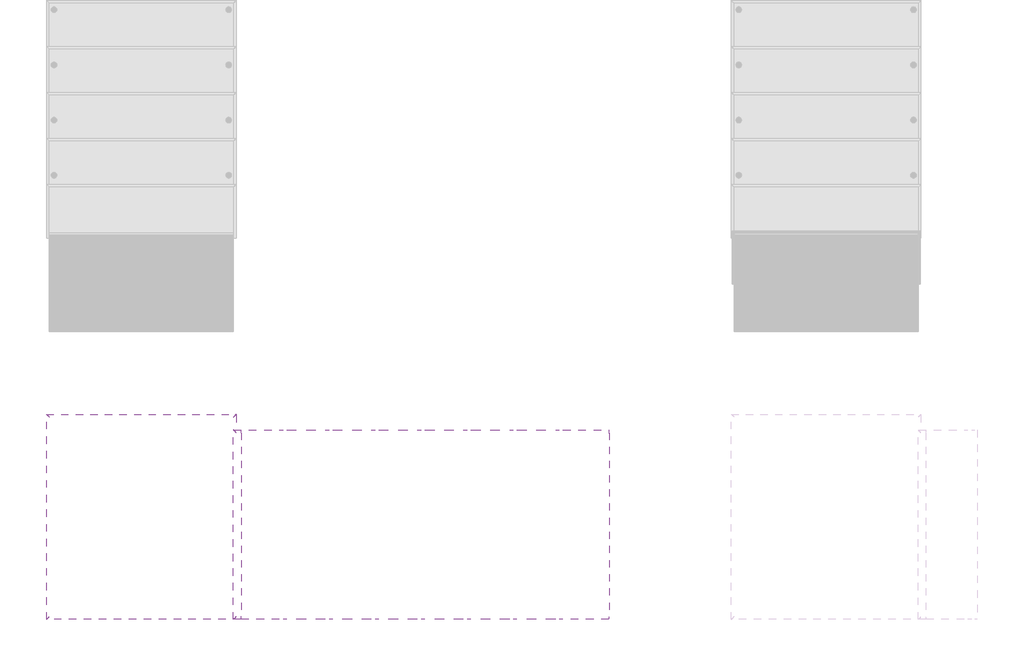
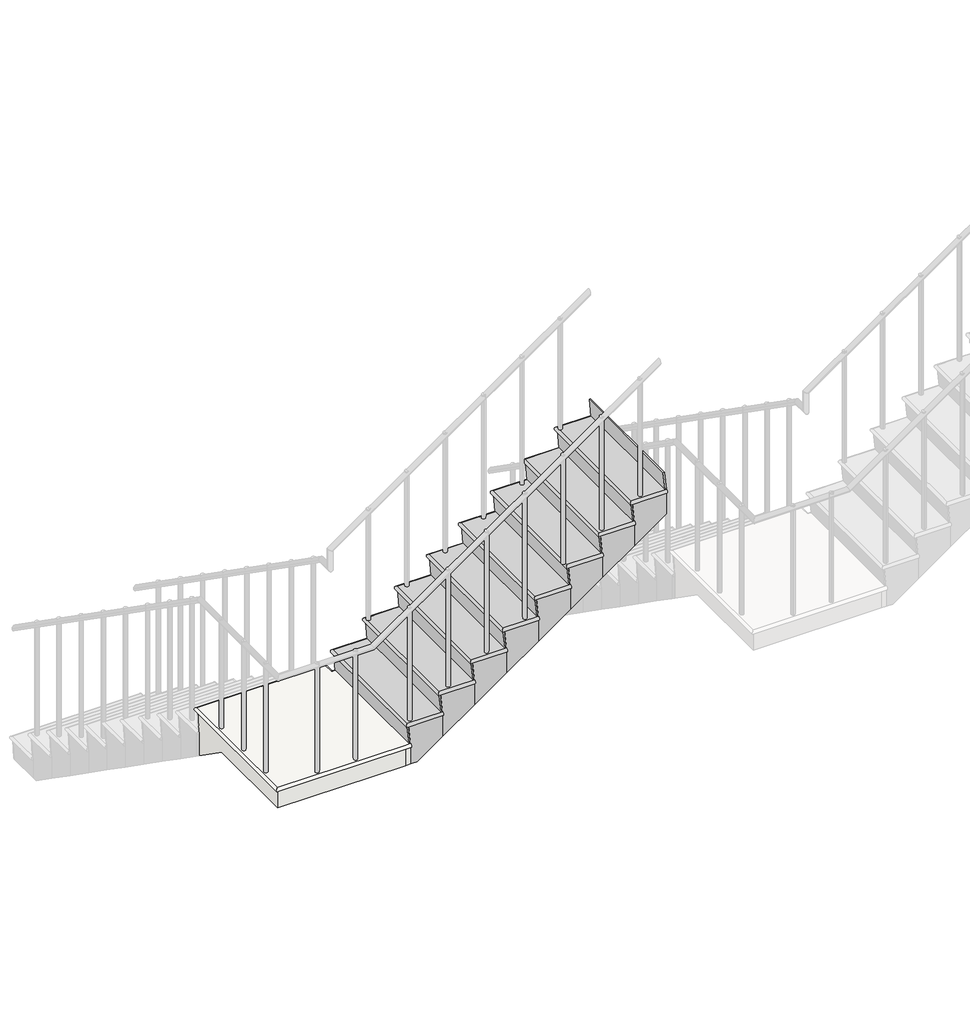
# One storey, part 1 of 6: 1 slab, 1 stair flight.
"""IFC4 building model written with IfcOpenShell, lengths in millimetres."""

from ifc_helpers import new_model, si_unit, frame, origin, place, context, project, spatial, circle_curve, ellipse_curve, faceted_brep, element, save
from ifc_brep_helpers import plane_surface, cylinder_surface, advanced_brep

model = new_model("IFC4")

# Units and contexts
model_context = context("Model", 3, world=origin())
ifc_project = project(units=[si_unit("LENGTHUNIT", "METRE", prefix="MILLI")], contexts=[model_context])

# Site, building, storey
site = spatial("IfcSite", under=ifc_project)
building = spatial("IfcBuilding", under=site)
storey = spatial("IfcBuildingStorey", under=building, Name="樓層 1", Elevation=0.0)

# Slab
placement = place(None, origin())
element("IfcSlab", 1, ObjectType="150mm 厚度", at=placement, inside=storey, context=model_context, shape_type="SolidModel", body=[
    faceted_brep([(-6429.5669097, 476.8888386, 1905.0), (-5429.5669097, 476.8888386, 1905.0), (-5429.5669097, 458.7853903, 1730.0), (-6429.5669097, 458.7853903, 1730.0), (-6429.5669097, -599.0922788, 1905.0), (-5429.5669097, -599.0922788, 1905.0), (-5387.4445789, -599.0922788, 1905.0), (-5387.4445789, 400.9077212, 1905.0), (-5429.5669097, 400.9077212, 1905.0), (-6429.5669097, 158.0144684, 1905.0), (-5429.5669097, 458.7853903, 1544.4603546), (-6429.5669097, 458.7853903, 1544.4603546), (-6429.5669097, 158.0144684, 1755.0), (-6429.5669097, -599.0922788, 1755.0), (-5429.5669097, -599.0922788, 1755.0), (-5387.4445789, -599.0922788, 1755.0), (-5387.4445789, 400.9077212, 1755.0), (-5429.5669097, 400.9077212, 1755.0), (-5429.5669097, 158.0144684, 1755.0)], [[[0, 1, 2, 3]], [[4, 5, 6, 7, 8, 1, 0, 9]], [[3, 2, 10, 11]], [[0, 3, 11, 12, 13, 4, 9]], [[5, 4, 13, 14]], [[6, 5, 14, 15]], [[7, 6, 15, 16]], [[8, 7, 16, 17]], [[1, 8, 17, 18, 10, 2]], [[12, 18, 17, 16, 15, 14, 13]], [[10, 18, 12, 11]]]),
    advanced_brep(
    [(-5389.5135444, -599.0922788, 1925.0), (-5387.4445789, -599.0922788, 1905.0), (-5387.4445789, 400.9077212, 1905.0), (-5389.5135444, 400.9077212, 1925.0), (-5429.5669097, 400.9077212, 1925.0), (-5429.5669097, 485.9077212, 1925.0), (-6429.5669097, 485.9077212, 1925.0), (-6429.5669097, -599.0922788, 1925.0), (-5429.5669097, -599.0922788, 1925.0), (-5389.5135444, -599.0922788, 1905.0), (-5429.5669097, -599.0922788, 1905.0), (-6429.5669097, -599.0922788, 1905.0), (-6429.5669097, 485.9077212, 1905.0), (-5429.5669097, 485.9077212, 1905.0), (-5429.5669097, 400.9077212, 1905.0), (-5389.5135444, 400.9077212, 1905.0), (-5389.5135444, -599.0922788, 1895.0), (-6429.5669097, -599.0922788, 1895.0), (-6429.5669097, 485.9077212, 1895.0), (-5429.5669097, 485.9077212, 1895.0), (-5429.5669097, 400.9077212, 1895.0), (-5389.5135444, 400.9077212, 1895.0)],
    [
        (0, 1),
        (1, 2),
        (2, 3),
        (3, 0),
        (3, 4),
        (4, 5),
        (5, 6),
        (6, 7),
        (7, 8),
        (8, 0),
        (1, 9),
        (9, 10),
        (10, 11),
        (11, 12),
        (12, 13),
        (13, 14),
        (14, 15),
        (15, 2),
        (0, 9),
        (15, 3),
        (0, 16, circle_curve(frame((-5389.5135444, -599.0922788, 1910.0), z_axis=(1.0, 0.0, 0.0), x_axis=(0.0, 1.0, 0.0)), 15.0)),
        (16, 9),
        (7, 17, ellipse_curve(frame((-6429.5669097, -599.0922788, 1910.0), z_axis=(0.7071067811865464, -0.7071067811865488, 0.0), x_axis=(0.7071067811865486, 0.7071067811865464, 0.0)), 21.2132034, 15.0)),
        (17, 16),
        (17, 11),
        (6, 18, ellipse_curve(frame((-6429.5669097, 485.9077212, 1910.0), z_axis=(-0.7071067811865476, -0.7071067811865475, 0.0), x_axis=(0.7071067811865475, -0.7071067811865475, 0.0)), 21.2132034, 15.0)),
        (18, 17),
        (18, 12),
        (5, 19, ellipse_curve(frame((-5429.5669097, 485.9077212, 1910.0), z_axis=(-0.7071067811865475, 0.7071067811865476, 0.0), x_axis=(-0.7071067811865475, -0.7071067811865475, 0.0)), 21.2132034, 15.0)),
        (19, 18),
        (19, 13),
        (4, 20, ellipse_curve(frame((-5429.5669097, 400.9077212, 1910.0), z_axis=(-0.7071067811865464, 0.7071067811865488, 0.0), x_axis=(0.7071067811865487, 0.7071067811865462, 0.0)), 21.2132034, 15.0)),
        (20, 19),
        (20, 14),
        (21, 3, circle_curve(frame((-5389.5135444, 400.9077212, 1910.0), z_axis=(1.0, 0.0, 0.0), x_axis=(0.0, -1.0, 0.0)), 15.0)),
        (15, 21),
        (21, 20),
    ],
    [
        plane_surface(frame((-5387.4445789, -599.0922788, 1905.0), z_axis=(0.9946917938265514, 0.0, 0.10289915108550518), x_axis=(0.0, 1.0, 0.0))),
        plane_surface(frame((-5429.5669097, 485.9077212, 1925.0), z_axis=(0.0, 0.0, 1.0), x_axis=(-1.0, 0.0, 0.0))),
        plane_surface(frame((-5429.5669097, 485.9077212, 1905.0), z_axis=(0.0, 0.0, -1.0), x_axis=(1.0, 0.0, 0.0))),
        plane_surface(frame((-5429.5669097, -599.0922788, 1925.0), z_axis=(0.0, -1.0, 0.0), x_axis=(0.0, 0.0, -1.0))),
        plane_surface(frame((-5389.5135444, 400.9077212, 1925.0), z_axis=(0.0, 1.0, 0.0), x_axis=(0.0, 0.0, -1.0))),
        plane_surface(frame((-5389.5135444, -599.0922788, 1925.0), z_axis=(1.0, 0.0, 0.0), x_axis=(0.0, 1.0, 0.0))),
        cylinder_surface(frame((-5389.5135444, -599.0922788, 1910.0), z_axis=(1.0, 0.0, 0.0), x_axis=(0.0, 1.0, 0.0)), 15.0),
        plane_surface(frame((-5389.5135444, -599.0922788, 1895.0), z_axis=(0.0, 1.0, 0.0), x_axis=(-1.0, 0.0, 0.0))),
        cylinder_surface(frame((-6429.5669097, -599.0922788, 1910.0), z_axis=(0.0, -1.0, 0.0), x_axis=(1.0, 0.0, 0.0)), 15.0),
        plane_surface(frame((-6429.5669097, -599.0922788, 1895.0), z_axis=(1.0, 0.0, 0.0), x_axis=(0.0, 1.0, 0.0))),
        cylinder_surface(frame((-6429.5669097, 485.9077212, 1910.0), z_axis=(-1.0, 0.0, 0.0), x_axis=(0.0, -1.0, 0.0)), 15.0),
        plane_surface(frame((-6429.5669097, 485.9077212, 1895.0), z_axis=(0.0, -1.0, 0.0), x_axis=(1.0, 0.0, 0.0))),
        cylinder_surface(frame((-5429.5669097, 485.9077212, 1910.0), z_axis=(0.0, 1.0, 0.0), x_axis=(-1.0, 0.0, 0.0)), 15.0),
        plane_surface(frame((-5429.5669097, 485.9077212, 1895.0), z_axis=(-1.0, 0.0, 0.0), x_axis=(0.0, -1.0, 0.0))),
        plane_surface(frame((-5389.5135444, 400.9077212, 1925.0), z_axis=(1.0, 0.0, 0.0), x_axis=(0.0, 1.0, 0.0))),
        cylinder_surface(frame((-5429.5669097, 400.9077212, 1910.0), z_axis=(-1.0, 0.0, 0.0), x_axis=(0.0, -1.0, 0.0)), 15.0),
        plane_surface(frame((-5429.5669097, 400.9077212, 1895.0), z_axis=(0.0, -1.0, 0.0), x_axis=(1.0, 0.0, 0.0))),
    ],
    [
        (0, [[1, 2, 3, 4]]),
        (1, [[-4, 5, 6, 7, 8, 9, 10]]),
        (2, [[-2, 11, 12, 13, 14, 15, 16, 17, 18]]),
        (3, [[-1, 19, -11]]),
        (4, [[-3, -18, 20]]),
        (5, [[21, 22, -19]]),
        (6, [[-21, -10, -9, 23, 24]]),
        (7, [[-24, 25, -13, -12, -22]]),
        (8, [[-23, -8, 26, 27]]),
        (9, [[-27, 28, -14, -25]]),
        (10, [[-26, -7, 29, 30]]),
        (11, [[-30, 31, -15, -28]]),
        (12, [[-29, -6, 32, 33]]),
        (13, [[-33, 34, -16, -31]]),
        (14, [[35, -20, 36]]),
        (15, [[-32, -5, -35, 37]]),
        (16, [[-37, -36, -17, -34]]),
    ],
),
])

# Stair flight
element("IfcStairFlight", 2, ObjectType="20mm 踏板 30mm 突沿 10mm 豎板", at=placement, inside=storey, context=model_context, shape_type="SolidModel", body=[
    faceted_brep([(-5405.5480271, -599.0922788, 2080.0), (-5405.5480271, 400.9077212, 2080.0), (-5387.4445789, 400.9077212, 1905.0), (-5387.4445789, -599.0922788, 1905.0), (-5336.6736569, -599.0922788, 2080.0), (-5137.4445789, -599.0922788, 2080.0), (-5137.4445789, 400.9077212, 2080.0), (-5336.6736569, 400.9077212, 2080.0), (-5137.4445789, 400.9077212, 1894.4603546), (-5336.6736569, 400.9077212, 1755.0), (-5387.4445789, 400.9077212, 1755.0), (-5387.4445789, -599.0922788, 1755.0), (-5336.6736569, -599.0922788, 1755.0), (-5137.4445789, -599.0922788, 1894.4603546), (-5155.5480271, 400.9077212, 2255.0), (-5155.5480271, -599.0922788, 2255.0), (-4887.4445789, -599.0922788, 2255.0), (-4887.4445789, 400.9077212, 2255.0), (-4887.4445789, 400.9077212, 2069.4603546), (-4887.4445789, -599.0922788, 2069.4603546), (-4905.5480271, 400.9077212, 2430.0), (-4905.5480271, -599.0922788, 2430.0), (-4637.4445789, -599.0922788, 2430.0), (-4637.4445789, 400.9077212, 2430.0), (-4637.4445789, 400.9077212, 2244.4603546), (-4637.4445789, -599.0922788, 2244.4603546), (-4655.5480271, 400.9077212, 2605.0), (-4655.5480271, -599.0922788, 2605.0), (-4387.4445789, -599.0922788, 2605.0), (-4387.4445789, 400.9077212, 2605.0), (-4387.4445789, 400.9077212, 2419.4603546), (-4387.4445789, -599.0922788, 2419.4603546), (-4405.5480271, 400.9077212, 2780.0), (-4405.5480271, -599.0922788, 2780.0), (-4137.4445789, -599.0922788, 2780.0), (-4137.4445789, 400.9077212, 2780.0), (-4137.4445789, 400.9077212, 2594.4603546), (-4137.4445789, -599.0922788, 2594.4603546), (-4155.5480271, 400.9077212, 2955.0), (-4155.5480271, -599.0922788, 2955.0), (-3887.4445789, -599.0922788, 2955.0), (-3887.4445789, 400.9077212, 2955.0), (-3887.4445789, 400.9077212, 2769.4603546), (-3887.4445789, -599.0922788, 2769.4603546), (-3905.5480271, 400.9077212, 3130.0), (-3905.5480271, -599.0922788, 3130.0), (-3637.4445789, -599.0922788, 3130.0), (-3637.4445789, 400.9077212, 3130.0), (-3637.4445789, 400.9077212, 2944.4603546), (-3637.4445789, -599.0922788, 2944.4603546), (-3655.5480271, 400.9077212, 3305.0), (-3655.5480271, -599.0922788, 3305.0), (-3387.4445789, -599.0922788, 3305.0), (-3387.4445789, 400.9077212, 3305.0), (-3387.4445789, 400.9077212, 3119.4603546), (-3387.4445789, -599.0922788, 3119.4603546)], [[[0, 1, 2, 3]], [[1, 0, 4, 5, 6, 7]], [[2, 1, 7, 6, 8, 9, 10]], [[3, 2, 10, 11]], [[0, 3, 11, 12, 13, 5, 4]], [[14, 15, 16, 17]], [[14, 17, 18, 8, 6]], [[16, 15, 5, 13, 19]], [[15, 14, 6, 5]], [[20, 21, 22, 23]], [[20, 23, 24, 18, 17]], [[22, 21, 16, 19, 25]], [[21, 20, 17, 16]], [[26, 27, 28, 29]], [[26, 29, 30, 24, 23]], [[28, 27, 22, 25, 31]], [[27, 26, 23, 22]], [[32, 33, 34, 35]], [[32, 35, 36, 30, 29]], [[34, 33, 28, 31, 37]], [[33, 32, 29, 28]], [[38, 39, 40, 41]], [[38, 41, 42, 36, 35]], [[40, 39, 34, 37, 43]], [[39, 38, 35, 34]], [[44, 45, 46, 47]], [[44, 47, 48, 42, 41]], [[46, 45, 40, 43, 49]], [[45, 44, 41, 40]], [[50, 51, 52, 53]], [[50, 53, 54, 48, 47]], [[52, 51, 46, 49, 55]], [[53, 52, 55, 54]], [[51, 50, 47, 46]], [[12, 9, 8, 18, 24, 30, 36, 42, 48, 54, 55, 49, 43, 37, 31, 25, 19, 13]], [[9, 12, 11, 10]]]),
    advanced_brep(
    [(-5139.5135444, -599.0922788, 2100.0), (-5137.4445789, -599.0922788, 2080.0), (-5137.4445789, 400.9077212, 2080.0), (-5139.5135444, 400.9077212, 2100.0), (-5414.5669097, 400.9077212, 2100.0), (-5414.5669097, -599.0922788, 2100.0), (-5139.5135444, -599.0922788, 2080.0), (-5414.5669097, -599.0922788, 2080.0), (-5414.5669097, 400.9077212, 2080.0), (-5139.5135444, 400.9077212, 2080.0), (-5139.5135444, -599.0922788, 2070.0), (-5414.5669097, -599.0922788, 2070.0), (-5414.5669097, 400.9077212, 2070.0), (-5139.5135444, 400.9077212, 2070.0)],
    [
        (0, 1),
        (1, 2),
        (2, 3),
        (3, 0),
        (3, 4),
        (4, 5),
        (5, 0),
        (1, 6),
        (6, 7),
        (7, 8),
        (8, 9),
        (9, 2),
        (9, 3),
        (0, 6),
        (0, 10, circle_curve(frame((-5139.5135444, -599.0922788, 2085.0), z_axis=(1.0, 0.0, 0.0), x_axis=(0.0, 1.0, 0.0)), 15.0)),
        (10, 6),
        (5, 11, ellipse_curve(frame((-5414.5669097, -599.0922788, 2085.0), z_axis=(0.7071067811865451, -0.7071067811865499, 0.0), x_axis=(0.7071067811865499, 0.7071067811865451, 0.0)), 21.2132034, 15.0)),
        (11, 10),
        (11, 7),
        (4, 12, ellipse_curve(frame((-5414.5669097, 400.9077212, 2085.0), z_axis=(-0.7071067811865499, -0.707106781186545, 0.0), x_axis=(0.7071067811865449, -0.70710678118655, 0.0)), 21.2132034, 15.0)),
        (12, 11),
        (12, 8),
        (13, 3, circle_curve(frame((-5139.5135444, 400.9077212, 2085.0), z_axis=(1.0, 0.0, 0.0), x_axis=(0.0, -1.0, 0.0)), 15.0)),
        (9, 13),
        (13, 12),
    ],
    [
        plane_surface(frame((-5137.4445789, -599.0922788, 2080.0), z_axis=(0.9946917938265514, 0.0, 0.10289915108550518), x_axis=(0.0, 1.0, 0.0))),
        plane_surface(frame((-5429.5669097, 400.9077212, 2100.0), z_axis=(0.0, 0.0, 1.0), x_axis=(-1.0, 0.0, 0.0))),
        plane_surface(frame((-5429.5669097, 400.9077212, 2080.0), z_axis=(0.0, 0.0, -1.0), x_axis=(1.0, 0.0, 0.0))),
        plane_surface(frame((-5139.5135444, 400.9077212, 2100.0), z_axis=(0.0, 1.0, 0.0), x_axis=(0.0, 0.0, -1.0))),
        plane_surface(frame((-5414.5669097, -599.0922788, 2100.0), z_axis=(0.0, -1.0, 0.0), x_axis=(0.0, 0.0, -1.0))),
        plane_surface(frame((-5139.5135444, -599.0922788, 2100.0), z_axis=(1.0, 0.0, 0.0), x_axis=(0.0, 1.0, 0.0))),
        cylinder_surface(frame((-5139.5135444, -599.0922788, 2085.0), z_axis=(1.0, 0.0, 0.0), x_axis=(0.0, 1.0, 0.0)), 15.0),
        plane_surface(frame((-5139.5135444, -599.0922788, 2070.0), z_axis=(0.0, 1.0, 0.0), x_axis=(-1.0, 0.0, 0.0))),
        cylinder_surface(frame((-5414.5669097, -599.0922788, 2085.0), z_axis=(0.0, -1.0, 0.0), x_axis=(1.0, 0.0, 0.0)), 15.0),
        plane_surface(frame((-5414.5669097, -599.0922788, 2070.0), z_axis=(1.0, 0.0, 0.0), x_axis=(0.0, 1.0, 0.0))),
        plane_surface(frame((-5139.5135444, 400.9077212, 2100.0), z_axis=(1.0, 0.0, 0.0), x_axis=(0.0, 1.0, 0.0))),
        cylinder_surface(frame((-5414.5669097, 400.9077212, 2085.0), z_axis=(-1.0, 0.0, 0.0), x_axis=(0.0, -1.0, 0.0)), 15.0),
        plane_surface(frame((-5414.5669097, 400.9077212, 2070.0), z_axis=(0.0, -1.0, 0.0), x_axis=(1.0, 0.0, 0.0))),
    ],
    [
        (0, [[1, 2, 3, 4]]),
        (1, [[-4, 5, 6, 7]]),
        (2, [[-2, 8, 9, 10, 11, 12]]),
        (3, [[-3, -12, 13]]),
        (4, [[-1, 14, -8]]),
        (5, [[15, 16, -14]]),
        (6, [[-15, -7, 17, 18]]),
        (7, [[-18, 19, -9, -16]]),
        (8, [[-17, -6, 20, 21]]),
        (9, [[-21, 22, -10, -19]]),
        (10, [[23, -13, 24]]),
        (11, [[-20, -5, -23, 25]]),
        (12, [[-25, -24, -11, -22]]),
    ],
),
    faceted_brep([(-5414.5669097, -599.0922788, 2070.0), (-5399.5669097, -599.0922788, 1925.0), (-5389.5135444, -599.0922788, 1925.0), (-5404.5135444, -599.0922788, 2070.0), (-5414.5669097, 400.9077212, 2070.0), (-5404.5135444, 400.9077212, 2070.0), (-5389.5135444, 400.9077212, 1925.0), (-5399.5669097, 400.9077212, 1925.0)], [[[0, 1, 2, 3]], [[4, 5, 6, 7]], [[1, 0, 4, 7]], [[2, 1, 7, 6]], [[3, 2, 6, 5]], [[0, 3, 5, 4]]]),
    faceted_brep([(-5164.5669097, -599.0922788, 2245.0), (-5149.5669097, -599.0922788, 2100.0), (-5139.5135444, -599.0922788, 2100.0), (-5154.5135444, -599.0922788, 2245.0), (-5164.5669097, 400.9077212, 2245.0), (-5154.5135444, 400.9077212, 2245.0), (-5139.5135444, 400.9077212, 2100.0), (-5149.5669097, 400.9077212, 2100.0)], [[[0, 1, 2, 3]], [[4, 5, 6, 7]], [[1, 0, 4, 7]], [[2, 1, 7, 6]], [[3, 2, 6, 5]], [[0, 3, 5, 4]]]),
    advanced_brep(
    [(-4889.5135444, -599.0922788, 2275.0), (-4889.5135444, 400.9077212, 2275.0), (-5164.5669097, 400.9077212, 2275.0), (-5164.5669097, -599.0922788, 2275.0), (-4887.4445789, 400.9077212, 2255.0), (-4887.4445789, -599.0922788, 2255.0), (-4889.5135444, -599.0922788, 2255.0), (-5164.5669097, -599.0922788, 2255.0), (-5164.5669097, 400.9077212, 2255.0), (-4889.5135444, 400.9077212, 2255.0), (-4889.5135444, -599.0922788, 2245.0), (-5164.5669097, -599.0922788, 2245.0), (-5164.5669097, 400.9077212, 2245.0), (-4889.5135444, 400.9077212, 2245.0)],
    [
        (0, 1),
        (1, 2),
        (2, 3),
        (3, 0),
        (4, 5),
        (5, 6),
        (6, 7),
        (7, 8),
        (8, 9),
        (9, 4),
        (1, 4),
        (9, 1),
        (5, 0),
        (0, 6),
        (0, 10, circle_curve(frame((-4889.5135444, -599.0922788, 2260.0), z_axis=(1.0, 0.0, 0.0), x_axis=(0.0, 1.0, 0.0)), 15.0)),
        (10, 6),
        (3, 11, ellipse_curve(frame((-5164.5669097, -599.0922788, 2260.0), z_axis=(0.7071067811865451, -0.7071067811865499, 0.0), x_axis=(0.7071067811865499, 0.7071067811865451, 0.0)), 21.2132034, 15.0)),
        (11, 10),
        (11, 7),
        (2, 12, ellipse_curve(frame((-5164.5669097, 400.9077212, 2260.0), z_axis=(-0.7071067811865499, -0.707106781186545, 0.0), x_axis=(0.7071067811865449, -0.70710678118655, 0.0)), 21.2132034, 15.0)),
        (12, 11),
        (12, 8),
        (13, 1, circle_curve(frame((-4889.5135444, 400.9077212, 2260.0), z_axis=(1.0, 0.0, 0.0), x_axis=(0.0, -1.0, 0.0)), 15.0)),
        (9, 13),
        (13, 12),
    ],
    [
        plane_surface(frame((-5179.5669097, 400.9077212, 2275.0), z_axis=(0.0, 0.0, 1.0), x_axis=(-1.0, 0.0, 0.0))),
        plane_surface(frame((-5179.5669097, 400.9077212, 2255.0), z_axis=(0.0, 0.0, -1.0), x_axis=(1.0, 0.0, 0.0))),
        plane_surface(frame((-4889.5135444, 400.9077212, 2275.0), z_axis=(0.0, 1.0, 0.0), x_axis=(0.0, 0.0, -1.0))),
        plane_surface(frame((-5164.5669097, -599.0922788, 2275.0), z_axis=(0.0, -1.0, 0.0), x_axis=(0.0, 0.0, -1.0))),
        plane_surface(frame((-4887.4445789, -599.0922788, 2255.0), z_axis=(0.9946917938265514, 0.0, 0.10289915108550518), x_axis=(0.0, 1.0, 0.0))),
        plane_surface(frame((-4889.5135444, -599.0922788, 2275.0), z_axis=(1.0, 0.0, 0.0), x_axis=(0.0, 1.0, 0.0))),
        cylinder_surface(frame((-4889.5135444, -599.0922788, 2260.0), z_axis=(1.0, 0.0, 0.0), x_axis=(0.0, 1.0, 0.0)), 15.0),
        plane_surface(frame((-4889.5135444, -599.0922788, 2245.0), z_axis=(0.0, 1.0, 0.0), x_axis=(-1.0, 0.0, 0.0))),
        cylinder_surface(frame((-5164.5669097, -599.0922788, 2260.0), z_axis=(0.0, -1.0, 0.0), x_axis=(1.0, 0.0, 0.0)), 15.0),
        plane_surface(frame((-5164.5669097, -599.0922788, 2245.0), z_axis=(1.0, 0.0, 0.0), x_axis=(0.0, 1.0, 0.0))),
        plane_surface(frame((-4889.5135444, 400.9077212, 2275.0), z_axis=(1.0, 0.0, 0.0), x_axis=(0.0, 1.0, 0.0))),
        cylinder_surface(frame((-5164.5669097, 400.9077212, 2260.0), z_axis=(-1.0, 0.0, 0.0), x_axis=(0.0, -1.0, 0.0)), 15.0),
        plane_surface(frame((-5164.5669097, 400.9077212, 2245.0), z_axis=(0.0, -1.0, 0.0), x_axis=(1.0, 0.0, 0.0))),
    ],
    [
        (0, [[1, 2, 3, 4]]),
        (1, [[5, 6, 7, 8, 9, 10]]),
        (2, [[11, -10, 12]]),
        (3, [[13, 14, -6]]),
        (4, [[-13, -5, -11, -1]]),
        (5, [[15, 16, -14]]),
        (6, [[-15, -4, 17, 18]]),
        (7, [[-18, 19, -7, -16]]),
        (8, [[-17, -3, 20, 21]]),
        (9, [[-21, 22, -8, -19]]),
        (10, [[23, -12, 24]]),
        (11, [[-20, -2, -23, 25]]),
        (12, [[-25, -24, -9, -22]]),
    ],
),
    faceted_brep([(-4914.5669097, -599.0922788, 2420.0), (-4899.5669097, -599.0922788, 2275.0), (-4889.5135444, -599.0922788, 2275.0), (-4904.5135444, -599.0922788, 2420.0), (-4914.5669097, 400.9077212, 2420.0), (-4904.5135444, 400.9077212, 2420.0), (-4889.5135444, 400.9077212, 2275.0), (-4899.5669097, 400.9077212, 2275.0)], [[[0, 1, 2, 3]], [[4, 5, 6, 7]], [[1, 0, 4, 7]], [[2, 1, 7, 6]], [[3, 2, 6, 5]], [[0, 3, 5, 4]]]),
    advanced_brep(
    [(-4639.5135444, -599.0922788, 2450.0), (-4639.5135444, 400.9077212, 2450.0), (-4914.5669097, 400.9077212, 2450.0), (-4914.5669097, -599.0922788, 2450.0), (-4637.4445789, 400.9077212, 2430.0), (-4637.4445789, -599.0922788, 2430.0), (-4639.5135444, -599.0922788, 2430.0), (-4914.5669097, -599.0922788, 2430.0), (-4914.5669097, 400.9077212, 2430.0), (-4639.5135444, 400.9077212, 2430.0), (-4639.5135444, -599.0922788, 2420.0), (-4914.5669097, -599.0922788, 2420.0), (-4914.5669097, 400.9077212, 2420.0), (-4639.5135444, 400.9077212, 2420.0)],
    [
        (0, 1),
        (1, 2),
        (2, 3),
        (3, 0),
        (4, 5),
        (5, 6),
        (6, 7),
        (7, 8),
        (8, 9),
        (9, 4),
        (1, 4),
        (9, 1),
        (5, 0),
        (0, 6),
        (0, 10, circle_curve(frame((-4639.5135444, -599.0922788, 2435.0), z_axis=(1.0, 0.0, 0.0), x_axis=(0.0, 1.0, 0.0)), 15.0)),
        (10, 6),
        (3, 11, ellipse_curve(frame((-4914.5669097, -599.0922788, 2435.0), z_axis=(0.7071067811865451, -0.7071067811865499, 0.0), x_axis=(0.7071067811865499, 0.7071067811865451, 0.0)), 21.2132034, 15.0)),
        (11, 10),
        (11, 7),
        (2, 12, ellipse_curve(frame((-4914.5669097, 400.9077212, 2435.0), z_axis=(-0.7071067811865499, -0.707106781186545, 0.0), x_axis=(0.7071067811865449, -0.70710678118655, 0.0)), 21.2132034, 15.0)),
        (12, 11),
        (12, 8),
        (13, 1, circle_curve(frame((-4639.5135444, 400.9077212, 2435.0), z_axis=(1.0, 0.0, 0.0), x_axis=(0.0, -1.0, 0.0)), 15.0)),
        (9, 13),
        (13, 12),
    ],
    [
        plane_surface(frame((-4929.5669097, 400.9077212, 2450.0), z_axis=(0.0, 0.0, 1.0), x_axis=(-1.0, 0.0, 0.0))),
        plane_surface(frame((-4929.5669097, 400.9077212, 2430.0), z_axis=(0.0, 0.0, -1.0), x_axis=(1.0, 0.0, 0.0))),
        plane_surface(frame((-4639.5135444, 400.9077212, 2450.0), z_axis=(0.0, 1.0, 0.0), x_axis=(0.0, 0.0, -1.0))),
        plane_surface(frame((-4914.5669097, -599.0922788, 2450.0), z_axis=(0.0, -1.0, 0.0), x_axis=(0.0, 0.0, -1.0))),
        plane_surface(frame((-4637.4445789, -599.0922788, 2430.0), z_axis=(0.9946917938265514, 0.0, 0.10289915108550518), x_axis=(0.0, 1.0, 0.0))),
        plane_surface(frame((-4639.5135444, -599.0922788, 2450.0), z_axis=(1.0, 0.0, 0.0), x_axis=(0.0, 1.0, 0.0))),
        cylinder_surface(frame((-4639.5135444, -599.0922788, 2435.0), z_axis=(1.0, 0.0, 0.0), x_axis=(0.0, 1.0, 0.0)), 15.0),
        plane_surface(frame((-4639.5135444, -599.0922788, 2420.0), z_axis=(0.0, 1.0, 0.0), x_axis=(-1.0, 0.0, 0.0))),
        cylinder_surface(frame((-4914.5669097, -599.0922788, 2435.0), z_axis=(0.0, -1.0, 0.0), x_axis=(1.0, 0.0, 0.0)), 15.0),
        plane_surface(frame((-4914.5669097, -599.0922788, 2420.0), z_axis=(1.0, 0.0, 0.0), x_axis=(0.0, 1.0, 0.0))),
        plane_surface(frame((-4639.5135444, 400.9077212, 2450.0), z_axis=(1.0, 0.0, 0.0), x_axis=(0.0, 1.0, 0.0))),
        cylinder_surface(frame((-4914.5669097, 400.9077212, 2435.0), z_axis=(-1.0, 0.0, 0.0), x_axis=(0.0, -1.0, 0.0)), 15.0),
        plane_surface(frame((-4914.5669097, 400.9077212, 2420.0), z_axis=(0.0, -1.0, 0.0), x_axis=(1.0, 0.0, 0.0))),
    ],
    [
        (0, [[1, 2, 3, 4]]),
        (1, [[5, 6, 7, 8, 9, 10]]),
        (2, [[11, -10, 12]]),
        (3, [[13, 14, -6]]),
        (4, [[-13, -5, -11, -1]]),
        (5, [[15, 16, -14]]),
        (6, [[-15, -4, 17, 18]]),
        (7, [[-18, 19, -7, -16]]),
        (8, [[-17, -3, 20, 21]]),
        (9, [[-21, 22, -8, -19]]),
        (10, [[23, -12, 24]]),
        (11, [[-20, -2, -23, 25]]),
        (12, [[-25, -24, -9, -22]]),
    ],
),
    faceted_brep([(-4664.5669097, -599.0922788, 2595.0), (-4649.5669097, -599.0922788, 2450.0), (-4639.5135444, -599.0922788, 2450.0), (-4654.5135444, -599.0922788, 2595.0), (-4664.5669097, 400.9077212, 2595.0), (-4654.5135444, 400.9077212, 2595.0), (-4639.5135444, 400.9077212, 2450.0), (-4649.5669097, 400.9077212, 2450.0)], [[[0, 1, 2, 3]], [[4, 5, 6, 7]], [[1, 0, 4, 7]], [[2, 1, 7, 6]], [[3, 2, 6, 5]], [[0, 3, 5, 4]]]),
    advanced_brep(
    [(-4389.5135444, -599.0922788, 2625.0), (-4389.5135444, 400.9077212, 2625.0), (-4664.5669097, 400.9077212, 2625.0), (-4664.5669097, -599.0922788, 2625.0), (-4387.4445789, 400.9077212, 2605.0), (-4387.4445789, -599.0922788, 2605.0), (-4389.5135444, -599.0922788, 2605.0), (-4664.5669097, -599.0922788, 2605.0), (-4664.5669097, 400.9077212, 2605.0), (-4389.5135444, 400.9077212, 2605.0), (-4389.5135444, -599.0922788, 2595.0), (-4664.5669097, -599.0922788, 2595.0), (-4664.5669097, 400.9077212, 2595.0), (-4389.5135444, 400.9077212, 2595.0)],
    [
        (0, 1),
        (1, 2),
        (2, 3),
        (3, 0),
        (4, 5),
        (5, 6),
        (6, 7),
        (7, 8),
        (8, 9),
        (9, 4),
        (1, 4),
        (9, 1),
        (5, 0),
        (0, 6),
        (0, 10, circle_curve(frame((-4389.5135444, -599.0922788, 2610.0), z_axis=(1.0, 0.0, 0.0), x_axis=(0.0, 1.0, 0.0)), 15.0)),
        (10, 6),
        (3, 11, ellipse_curve(frame((-4664.5669097, -599.0922788, 2610.0), z_axis=(0.7071067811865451, -0.7071067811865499, 0.0), x_axis=(0.7071067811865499, 0.7071067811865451, 0.0)), 21.2132034, 15.0)),
        (11, 10),
        (11, 7),
        (2, 12, ellipse_curve(frame((-4664.5669097, 400.9077212, 2610.0), z_axis=(-0.7071067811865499, -0.707106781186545, 0.0), x_axis=(0.7071067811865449, -0.70710678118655, 0.0)), 21.2132034, 15.0)),
        (12, 11),
        (12, 8),
        (13, 1, circle_curve(frame((-4389.5135444, 400.9077212, 2610.0), z_axis=(1.0, 0.0, 0.0), x_axis=(0.0, -1.0, 0.0)), 15.0)),
        (9, 13),
        (13, 12),
    ],
    [
        plane_surface(frame((-4679.5669097, 400.9077212, 2625.0), z_axis=(0.0, 0.0, 1.0), x_axis=(-1.0, 0.0, 0.0))),
        plane_surface(frame((-4679.5669097, 400.9077212, 2605.0), z_axis=(0.0, 0.0, -1.0), x_axis=(1.0, 0.0, 0.0))),
        plane_surface(frame((-4389.5135444, 400.9077212, 2625.0), z_axis=(0.0, 1.0, 0.0), x_axis=(0.0, 0.0, -1.0))),
        plane_surface(frame((-4664.5669097, -599.0922788, 2625.0), z_axis=(0.0, -1.0, 0.0), x_axis=(0.0, 0.0, -1.0))),
        plane_surface(frame((-4387.4445789, -599.0922788, 2605.0), z_axis=(0.9946917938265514, 0.0, 0.10289915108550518), x_axis=(0.0, 1.0, 0.0))),
        plane_surface(frame((-4389.5135444, -599.0922788, 2625.0), z_axis=(1.0, 0.0, 0.0), x_axis=(0.0, 1.0, 0.0))),
        cylinder_surface(frame((-4389.5135444, -599.0922788, 2610.0), z_axis=(1.0, 0.0, 0.0), x_axis=(0.0, 1.0, 0.0)), 15.0),
        plane_surface(frame((-4389.5135444, -599.0922788, 2595.0), z_axis=(0.0, 1.0, 0.0), x_axis=(-1.0, 0.0, 0.0))),
        cylinder_surface(frame((-4664.5669097, -599.0922788, 2610.0), z_axis=(0.0, -1.0, 0.0), x_axis=(1.0, 0.0, 0.0)), 15.0),
        plane_surface(frame((-4664.5669097, -599.0922788, 2595.0), z_axis=(1.0, 0.0, 0.0), x_axis=(0.0, 1.0, 0.0))),
        plane_surface(frame((-4389.5135444, 400.9077212, 2625.0), z_axis=(1.0, 0.0, 0.0), x_axis=(0.0, 1.0, 0.0))),
        cylinder_surface(frame((-4664.5669097, 400.9077212, 2610.0), z_axis=(-1.0, 0.0, 0.0), x_axis=(0.0, -1.0, 0.0)), 15.0),
        plane_surface(frame((-4664.5669097, 400.9077212, 2595.0), z_axis=(0.0, -1.0, 0.0), x_axis=(1.0, 0.0, 0.0))),
    ],
    [
        (0, [[1, 2, 3, 4]]),
        (1, [[5, 6, 7, 8, 9, 10]]),
        (2, [[11, -10, 12]]),
        (3, [[13, 14, -6]]),
        (4, [[-13, -5, -11, -1]]),
        (5, [[15, 16, -14]]),
        (6, [[-15, -4, 17, 18]]),
        (7, [[-18, 19, -7, -16]]),
        (8, [[-17, -3, 20, 21]]),
        (9, [[-21, 22, -8, -19]]),
        (10, [[23, -12, 24]]),
        (11, [[-20, -2, -23, 25]]),
        (12, [[-25, -24, -9, -22]]),
    ],
),
    faceted_brep([(-4414.5669097, -599.0922788, 2770.0), (-4399.5669097, -599.0922788, 2625.0), (-4389.5135444, -599.0922788, 2625.0), (-4404.5135444, -599.0922788, 2770.0), (-4414.5669097, 400.9077212, 2770.0), (-4404.5135444, 400.9077212, 2770.0), (-4389.5135444, 400.9077212, 2625.0), (-4399.5669097, 400.9077212, 2625.0)], [[[0, 1, 2, 3]], [[4, 5, 6, 7]], [[1, 0, 4, 7]], [[2, 1, 7, 6]], [[3, 2, 6, 5]], [[0, 3, 5, 4]]]),
    advanced_brep(
    [(-4139.5135444, -599.0922788, 2800.0), (-4139.5135444, 400.9077212, 2800.0), (-4414.5669097, 400.9077212, 2800.0), (-4414.5669097, -599.0922788, 2800.0), (-4137.4445789, 400.9077212, 2780.0), (-4137.4445789, -599.0922788, 2780.0), (-4139.5135444, -599.0922788, 2780.0), (-4414.5669097, -599.0922788, 2780.0), (-4414.5669097, 400.9077212, 2780.0), (-4139.5135444, 400.9077212, 2780.0), (-4139.5135444, -599.0922788, 2770.0), (-4414.5669097, -599.0922788, 2770.0), (-4414.5669097, 400.9077212, 2770.0), (-4139.5135444, 400.9077212, 2770.0)],
    [
        (0, 1),
        (1, 2),
        (2, 3),
        (3, 0),
        (4, 5),
        (5, 6),
        (6, 7),
        (7, 8),
        (8, 9),
        (9, 4),
        (1, 4),
        (9, 1),
        (5, 0),
        (0, 6),
        (0, 10, circle_curve(frame((-4139.5135444, -599.0922788, 2785.0), z_axis=(1.0, 0.0, 0.0), x_axis=(0.0, 1.0, 0.0)), 15.0)),
        (10, 6),
        (3, 11, ellipse_curve(frame((-4414.5669097, -599.0922788, 2785.0), z_axis=(0.7071067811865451, -0.7071067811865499, 0.0), x_axis=(0.7071067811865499, 0.7071067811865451, 0.0)), 21.2132034, 15.0)),
        (11, 10),
        (11, 7),
        (2, 12, ellipse_curve(frame((-4414.5669097, 400.9077212, 2785.0), z_axis=(-0.7071067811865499, -0.707106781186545, 0.0), x_axis=(0.7071067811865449, -0.70710678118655, 0.0)), 21.2132034, 15.0)),
        (12, 11),
        (12, 8),
        (13, 1, circle_curve(frame((-4139.5135444, 400.9077212, 2785.0), z_axis=(1.0, 0.0, 0.0), x_axis=(0.0, -1.0, 0.0)), 15.0)),
        (9, 13),
        (13, 12),
    ],
    [
        plane_surface(frame((-4429.5669097, 400.9077212, 2800.0), z_axis=(0.0, 0.0, 1.0), x_axis=(-1.0, 0.0, 0.0))),
        plane_surface(frame((-4429.5669097, 400.9077212, 2780.0), z_axis=(0.0, 0.0, -1.0), x_axis=(1.0, 0.0, 0.0))),
        plane_surface(frame((-4139.5135444, 400.9077212, 2800.0), z_axis=(0.0, 1.0, 0.0), x_axis=(0.0, 0.0, -1.0))),
        plane_surface(frame((-4414.5669097, -599.0922788, 2800.0), z_axis=(0.0, -1.0, 0.0), x_axis=(0.0, 0.0, -1.0))),
        plane_surface(frame((-4137.4445789, -599.0922788, 2780.0), z_axis=(0.9946917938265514, 0.0, 0.10289915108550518), x_axis=(0.0, 1.0, 0.0))),
        plane_surface(frame((-4139.5135444, -599.0922788, 2800.0), z_axis=(1.0, 0.0, 0.0), x_axis=(0.0, 1.0, 0.0))),
        cylinder_surface(frame((-4139.5135444, -599.0922788, 2785.0), z_axis=(1.0, 0.0, 0.0), x_axis=(0.0, 1.0, 0.0)), 15.0),
        plane_surface(frame((-4139.5135444, -599.0922788, 2770.0), z_axis=(0.0, 1.0, 0.0), x_axis=(-1.0, 0.0, 0.0))),
        cylinder_surface(frame((-4414.5669097, -599.0922788, 2785.0), z_axis=(0.0, -1.0, 0.0), x_axis=(1.0, 0.0, 0.0)), 15.0),
        plane_surface(frame((-4414.5669097, -599.0922788, 2770.0), z_axis=(1.0, 0.0, 0.0), x_axis=(0.0, 1.0, 0.0))),
        plane_surface(frame((-4139.5135444, 400.9077212, 2800.0), z_axis=(1.0, 0.0, 0.0), x_axis=(0.0, 1.0, 0.0))),
        cylinder_surface(frame((-4414.5669097, 400.9077212, 2785.0), z_axis=(-1.0, 0.0, 0.0), x_axis=(0.0, -1.0, 0.0)), 15.0),
        plane_surface(frame((-4414.5669097, 400.9077212, 2770.0), z_axis=(0.0, -1.0, 0.0), x_axis=(1.0, 0.0, 0.0))),
    ],
    [
        (0, [[1, 2, 3, 4]]),
        (1, [[5, 6, 7, 8, 9, 10]]),
        (2, [[11, -10, 12]]),
        (3, [[13, 14, -6]]),
        (4, [[-13, -5, -11, -1]]),
        (5, [[15, 16, -14]]),
        (6, [[-15, -4, 17, 18]]),
        (7, [[-18, 19, -7, -16]]),
        (8, [[-17, -3, 20, 21]]),
        (9, [[-21, 22, -8, -19]]),
        (10, [[23, -12, 24]]),
        (11, [[-20, -2, -23, 25]]),
        (12, [[-25, -24, -9, -22]]),
    ],
),
    faceted_brep([(-4164.5669097, -599.0922788, 2945.0), (-4149.5669097, -599.0922788, 2800.0), (-4139.5135444, -599.0922788, 2800.0), (-4154.5135444, -599.0922788, 2945.0), (-4164.5669097, 400.9077212, 2945.0), (-4154.5135444, 400.9077212, 2945.0), (-4139.5135444, 400.9077212, 2800.0), (-4149.5669097, 400.9077212, 2800.0)], [[[0, 1, 2, 3]], [[4, 5, 6, 7]], [[1, 0, 4, 7]], [[2, 1, 7, 6]], [[3, 2, 6, 5]], [[0, 3, 5, 4]]]),
    advanced_brep(
    [(-3889.5135444, -599.0922788, 2975.0), (-3889.5135444, 400.9077212, 2975.0), (-4164.5669097, 400.9077212, 2975.0), (-4164.5669097, -599.0922788, 2975.0), (-3887.4445789, 400.9077212, 2955.0), (-3887.4445789, -599.0922788, 2955.0), (-3889.5135444, -599.0922788, 2955.0), (-4164.5669097, -599.0922788, 2955.0), (-4164.5669097, 400.9077212, 2955.0), (-3889.5135444, 400.9077212, 2955.0), (-3889.5135444, -599.0922788, 2945.0), (-4164.5669097, -599.0922788, 2945.0), (-4164.5669097, 400.9077212, 2945.0), (-3889.5135444, 400.9077212, 2945.0)],
    [
        (0, 1),
        (1, 2),
        (2, 3),
        (3, 0),
        (4, 5),
        (5, 6),
        (6, 7),
        (7, 8),
        (8, 9),
        (9, 4),
        (1, 4),
        (9, 1),
        (5, 0),
        (0, 6),
        (0, 10, circle_curve(frame((-3889.5135444, -599.0922788, 2960.0), z_axis=(1.0, 0.0, 0.0), x_axis=(0.0, 1.0, 0.0)), 15.0)),
        (10, 6),
        (3, 11, ellipse_curve(frame((-4164.5669097, -599.0922788, 2960.0), z_axis=(0.7071067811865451, -0.7071067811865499, 0.0), x_axis=(0.7071067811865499, 0.7071067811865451, 0.0)), 21.2132034, 15.0)),
        (11, 10),
        (11, 7),
        (2, 12, ellipse_curve(frame((-4164.5669097, 400.9077212, 2960.0), z_axis=(-0.7071067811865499, -0.707106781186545, 0.0), x_axis=(0.7071067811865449, -0.70710678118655, 0.0)), 21.2132034, 15.0)),
        (12, 11),
        (12, 8),
        (13, 1, circle_curve(frame((-3889.5135444, 400.9077212, 2960.0), z_axis=(1.0, 0.0, 0.0), x_axis=(0.0, -1.0, 0.0)), 15.0)),
        (9, 13),
        (13, 12),
    ],
    [
        plane_surface(frame((-4179.5669097, 400.9077212, 2975.0), z_axis=(0.0, 0.0, 1.0), x_axis=(-1.0, 0.0, 0.0))),
        plane_surface(frame((-4179.5669097, 400.9077212, 2955.0), z_axis=(0.0, 0.0, -1.0), x_axis=(1.0, 0.0, 0.0))),
        plane_surface(frame((-3889.5135444, 400.9077212, 2975.0), z_axis=(0.0, 1.0, 0.0), x_axis=(0.0, 0.0, -1.0))),
        plane_surface(frame((-4164.5669097, -599.0922788, 2975.0), z_axis=(0.0, -1.0, 0.0), x_axis=(0.0, 0.0, -1.0))),
        plane_surface(frame((-3887.4445789, -599.0922788, 2955.0), z_axis=(0.9946917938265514, 0.0, 0.10289915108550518), x_axis=(0.0, 1.0, 0.0))),
        plane_surface(frame((-3889.5135444, -599.0922788, 2975.0), z_axis=(1.0, 0.0, 0.0), x_axis=(0.0, 1.0, 0.0))),
        cylinder_surface(frame((-3889.5135444, -599.0922788, 2960.0), z_axis=(1.0, 0.0, 0.0), x_axis=(0.0, 1.0, 0.0)), 15.0),
        plane_surface(frame((-3889.5135444, -599.0922788, 2945.0), z_axis=(0.0, 1.0, 0.0), x_axis=(-1.0, 0.0, 0.0))),
        cylinder_surface(frame((-4164.5669097, -599.0922788, 2960.0), z_axis=(0.0, -1.0, 0.0), x_axis=(1.0, 0.0, 0.0)), 15.0),
        plane_surface(frame((-4164.5669097, -599.0922788, 2945.0), z_axis=(1.0, 0.0, 0.0), x_axis=(0.0, 1.0, 0.0))),
        plane_surface(frame((-3889.5135444, 400.9077212, 2975.0), z_axis=(1.0, 0.0, 0.0), x_axis=(0.0, 1.0, 0.0))),
        cylinder_surface(frame((-4164.5669097, 400.9077212, 2960.0), z_axis=(-1.0, 0.0, 0.0), x_axis=(0.0, -1.0, 0.0)), 15.0),
        plane_surface(frame((-4164.5669097, 400.9077212, 2945.0), z_axis=(0.0, -1.0, 0.0), x_axis=(1.0, 0.0, 0.0))),
    ],
    [
        (0, [[1, 2, 3, 4]]),
        (1, [[5, 6, 7, 8, 9, 10]]),
        (2, [[11, -10, 12]]),
        (3, [[13, 14, -6]]),
        (4, [[-13, -5, -11, -1]]),
        (5, [[15, 16, -14]]),
        (6, [[-15, -4, 17, 18]]),
        (7, [[-18, 19, -7, -16]]),
        (8, [[-17, -3, 20, 21]]),
        (9, [[-21, 22, -8, -19]]),
        (10, [[23, -12, 24]]),
        (11, [[-20, -2, -23, 25]]),
        (12, [[-25, -24, -9, -22]]),
    ],
),
    faceted_brep([(-3914.5669097, -599.0922788, 3120.0), (-3899.5669097, -599.0922788, 2975.0), (-3889.5135444, -599.0922788, 2975.0), (-3904.5135444, -599.0922788, 3120.0), (-3914.5669097, 400.9077212, 3120.0), (-3904.5135444, 400.9077212, 3120.0), (-3889.5135444, 400.9077212, 2975.0), (-3899.5669097, 400.9077212, 2975.0)], [[[0, 1, 2, 3]], [[4, 5, 6, 7]], [[1, 0, 4, 7]], [[2, 1, 7, 6]], [[3, 2, 6, 5]], [[0, 3, 5, 4]]]),
    advanced_brep(
    [(-3639.5135444, -599.0922788, 3150.0), (-3639.5135444, 400.9077212, 3150.0), (-3914.5669097, 400.9077212, 3150.0), (-3914.5669097, -599.0922788, 3150.0), (-3637.4445789, 400.9077212, 3130.0), (-3637.4445789, -599.0922788, 3130.0), (-3639.5135444, -599.0922788, 3130.0), (-3914.5669097, -599.0922788, 3130.0), (-3914.5669097, 400.9077212, 3130.0), (-3639.5135444, 400.9077212, 3130.0), (-3639.5135444, -599.0922788, 3120.0), (-3914.5669097, -599.0922788, 3120.0), (-3914.5669097, 400.9077212, 3120.0), (-3639.5135444, 400.9077212, 3120.0)],
    [
        (0, 1),
        (1, 2),
        (2, 3),
        (3, 0),
        (4, 5),
        (5, 6),
        (6, 7),
        (7, 8),
        (8, 9),
        (9, 4),
        (1, 4),
        (9, 1),
        (5, 0),
        (0, 6),
        (0, 10, circle_curve(frame((-3639.5135444, -599.0922788, 3135.0), z_axis=(1.0, 0.0, 0.0), x_axis=(0.0, 1.0, 0.0)), 15.0)),
        (10, 6),
        (3, 11, ellipse_curve(frame((-3914.5669097, -599.0922788, 3135.0), z_axis=(0.7071067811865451, -0.7071067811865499, 0.0), x_axis=(0.7071067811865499, 0.7071067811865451, 0.0)), 21.2132034, 15.0)),
        (11, 10),
        (11, 7),
        (2, 12, ellipse_curve(frame((-3914.5669097, 400.9077212, 3135.0), z_axis=(-0.7071067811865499, -0.707106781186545, 0.0), x_axis=(0.7071067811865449, -0.70710678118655, 0.0)), 21.2132034, 15.0)),
        (12, 11),
        (12, 8),
        (13, 1, circle_curve(frame((-3639.5135444, 400.9077212, 3135.0), z_axis=(1.0, 0.0, 0.0), x_axis=(0.0, -1.0, 0.0)), 15.0)),
        (9, 13),
        (13, 12),
    ],
    [
        plane_surface(frame((-3929.5669097, 400.9077212, 3150.0), z_axis=(0.0, 0.0, 1.0), x_axis=(-1.0, 0.0, 0.0))),
        plane_surface(frame((-3929.5669097, 400.9077212, 3130.0), z_axis=(0.0, 0.0, -1.0), x_axis=(1.0, 0.0, 0.0))),
        plane_surface(frame((-3639.5135444, 400.9077212, 3150.0), z_axis=(0.0, 1.0, 0.0), x_axis=(0.0, 0.0, -1.0))),
        plane_surface(frame((-3914.5669097, -599.0922788, 3150.0), z_axis=(0.0, -1.0, 0.0), x_axis=(0.0, 0.0, -1.0))),
        plane_surface(frame((-3637.4445789, -599.0922788, 3130.0), z_axis=(0.9946917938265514, 0.0, 0.10289915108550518), x_axis=(0.0, 1.0, 0.0))),
        plane_surface(frame((-3639.5135444, -599.0922788, 3150.0), z_axis=(1.0, 0.0, 0.0), x_axis=(0.0, 1.0, 0.0))),
        cylinder_surface(frame((-3639.5135444, -599.0922788, 3135.0), z_axis=(1.0, 0.0, 0.0), x_axis=(0.0, 1.0, 0.0)), 15.0),
        plane_surface(frame((-3639.5135444, -599.0922788, 3120.0), z_axis=(0.0, 1.0, 0.0), x_axis=(-1.0, 0.0, 0.0))),
        cylinder_surface(frame((-3914.5669097, -599.0922788, 3135.0), z_axis=(0.0, -1.0, 0.0), x_axis=(1.0, 0.0, 0.0)), 15.0),
        plane_surface(frame((-3914.5669097, -599.0922788, 3120.0), z_axis=(1.0, 0.0, 0.0), x_axis=(0.0, 1.0, 0.0))),
        plane_surface(frame((-3639.5135444, 400.9077212, 3150.0), z_axis=(1.0, 0.0, 0.0), x_axis=(0.0, 1.0, 0.0))),
        cylinder_surface(frame((-3914.5669097, 400.9077212, 3135.0), z_axis=(-1.0, 0.0, 0.0), x_axis=(0.0, -1.0, 0.0)), 15.0),
        plane_surface(frame((-3914.5669097, 400.9077212, 3120.0), z_axis=(0.0, -1.0, 0.0), x_axis=(1.0, 0.0, 0.0))),
    ],
    [
        (0, [[1, 2, 3, 4]]),
        (1, [[5, 6, 7, 8, 9, 10]]),
        (2, [[11, -10, 12]]),
        (3, [[13, 14, -6]]),
        (4, [[-13, -5, -11, -1]]),
        (5, [[15, 16, -14]]),
        (6, [[-15, -4, 17, 18]]),
        (7, [[-18, 19, -7, -16]]),
        (8, [[-17, -3, 20, 21]]),
        (9, [[-21, 22, -8, -19]]),
        (10, [[23, -12, 24]]),
        (11, [[-20, -2, -23, 25]]),
        (12, [[-25, -24, -9, -22]]),
    ],
),
    faceted_brep([(-3664.5669097, -599.0922788, 3295.0), (-3649.5669097, -599.0922788, 3150.0), (-3639.5135444, -599.0922788, 3150.0), (-3654.5135444, -599.0922788, 3295.0), (-3664.5669097, 400.9077212, 3295.0), (-3654.5135444, 400.9077212, 3295.0), (-3639.5135444, 400.9077212, 3150.0), (-3649.5669097, 400.9077212, 3150.0)], [[[0, 1, 2, 3]], [[4, 5, 6, 7]], [[1, 0, 4, 7]], [[2, 1, 7, 6]], [[3, 2, 6, 5]], [[0, 3, 5, 4]]]),
    faceted_brep([(-3414.5669097, -599.0922788, 3470.0), (-3399.5669097, -599.0922788, 3325.0), (-3389.5135444, -599.0922788, 3325.0), (-3404.5135444, -599.0922788, 3470.0), (-3414.5669097, 400.9077212, 3470.0), (-3404.5135444, 400.9077212, 3470.0), (-3389.5135444, 400.9077212, 3325.0), (-3399.5669097, 400.9077212, 3325.0)], [[[0, 1, 2, 3]], [[4, 5, 6, 7]], [[1, 0, 4, 7]], [[2, 1, 7, 6]], [[3, 2, 6, 5]], [[0, 3, 5, 4]]]),
    advanced_brep(
    [(-3389.5135444, -599.0922788, 3325.0), (-3389.5135444, 400.9077212, 3325.0), (-3664.5669097, 400.9077212, 3325.0), (-3664.5669097, -599.0922788, 3325.0), (-3387.4445789, 400.9077212, 3305.0), (-3387.4445789, -599.0922788, 3305.0), (-3389.5135444, -599.0922788, 3305.0), (-3664.5669097, -599.0922788, 3305.0), (-3664.5669097, 400.9077212, 3305.0), (-3389.5135444, 400.9077212, 3305.0), (-3389.5135444, -599.0922788, 3295.0), (-3664.5669097, -599.0922788, 3295.0), (-3664.5669097, 400.9077212, 3295.0), (-3389.5135444, 400.9077212, 3295.0)],
    [
        (0, 1),
        (1, 2),
        (2, 3),
        (3, 0),
        (4, 5),
        (5, 6),
        (6, 7),
        (7, 8),
        (8, 9),
        (9, 4),
        (1, 4),
        (9, 1),
        (5, 0),
        (0, 6),
        (0, 10, circle_curve(frame((-3389.5135444, -599.0922788, 3310.0), z_axis=(1.0, 0.0, 0.0), x_axis=(0.0, 1.0, 0.0)), 15.0)),
        (10, 6),
        (3, 11, ellipse_curve(frame((-3664.5669097, -599.0922788, 3310.0), z_axis=(0.7071067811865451, -0.7071067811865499, 0.0), x_axis=(0.7071067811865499, 0.7071067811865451, 0.0)), 21.2132034, 15.0)),
        (11, 10),
        (11, 7),
        (2, 12, ellipse_curve(frame((-3664.5669097, 400.9077212, 3310.0), z_axis=(-0.7071067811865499, -0.707106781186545, 0.0), x_axis=(0.7071067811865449, -0.70710678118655, 0.0)), 21.2132034, 15.0)),
        (12, 11),
        (12, 8),
        (13, 1, circle_curve(frame((-3389.5135444, 400.9077212, 3310.0), z_axis=(1.0, 0.0, 0.0), x_axis=(0.0, -1.0, 0.0)), 15.0)),
        (9, 13),
        (13, 12),
    ],
    [
        plane_surface(frame((-3679.5669097, 400.9077212, 3325.0), z_axis=(0.0, 0.0, 1.0), x_axis=(-1.0, 0.0, 0.0))),
        plane_surface(frame((-3679.5669097, 400.9077212, 3305.0), z_axis=(0.0, 0.0, -1.0), x_axis=(1.0, 0.0, 0.0))),
        plane_surface(frame((-3389.5135444, 400.9077212, 3325.0), z_axis=(0.0, 1.0, 0.0), x_axis=(0.0, 0.0, -1.0))),
        plane_surface(frame((-3664.5669097, -599.0922788, 3325.0), z_axis=(0.0, -1.0, 0.0), x_axis=(0.0, 0.0, -1.0))),
        plane_surface(frame((-3387.4445789, -599.0922788, 3305.0), z_axis=(0.9946917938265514, 0.0, 0.10289915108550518), x_axis=(0.0, 1.0, 0.0))),
        plane_surface(frame((-3389.5135444, -599.0922788, 3325.0), z_axis=(1.0, 0.0, 0.0), x_axis=(0.0, 1.0, 0.0))),
        cylinder_surface(frame((-3389.5135444, -599.0922788, 3310.0), z_axis=(1.0, 0.0, 0.0), x_axis=(0.0, 1.0, 0.0)), 15.0),
        plane_surface(frame((-3389.5135444, -599.0922788, 3295.0), z_axis=(0.0, 1.0, 0.0), x_axis=(-1.0, 0.0, 0.0))),
        cylinder_surface(frame((-3664.5669097, -599.0922788, 3310.0), z_axis=(0.0, -1.0, 0.0), x_axis=(1.0, 0.0, 0.0)), 15.0),
        plane_surface(frame((-3664.5669097, -599.0922788, 3295.0), z_axis=(1.0, 0.0, 0.0), x_axis=(0.0, 1.0, 0.0))),
        plane_surface(frame((-3389.5135444, 400.9077212, 3325.0), z_axis=(1.0, 0.0, 0.0), x_axis=(0.0, 1.0, 0.0))),
        cylinder_surface(frame((-3664.5669097, 400.9077212, 3310.0), z_axis=(-1.0, 0.0, 0.0), x_axis=(0.0, -1.0, 0.0)), 15.0),
        plane_surface(frame((-3664.5669097, 400.9077212, 3295.0), z_axis=(0.0, -1.0, 0.0), x_axis=(1.0, 0.0, 0.0))),
    ],
    [
        (0, [[1, 2, 3, 4]]),
        (1, [[5, 6, 7, 8, 9, 10]]),
        (2, [[11, -10, 12]]),
        (3, [[13, 14, -6]]),
        (4, [[-13, -5, -11, -1]]),
        (5, [[15, 16, -14]]),
        (6, [[-15, -4, 17, 18]]),
        (7, [[-18, 19, -7, -16]]),
        (8, [[-17, -3, 20, 21]]),
        (9, [[-21, 22, -8, -19]]),
        (10, [[23, -12, 24]]),
        (11, [[-20, -2, -23, 25]]),
        (12, [[-25, -24, -9, -22]]),
    ],
),
])

save(model, "model.ifc")
